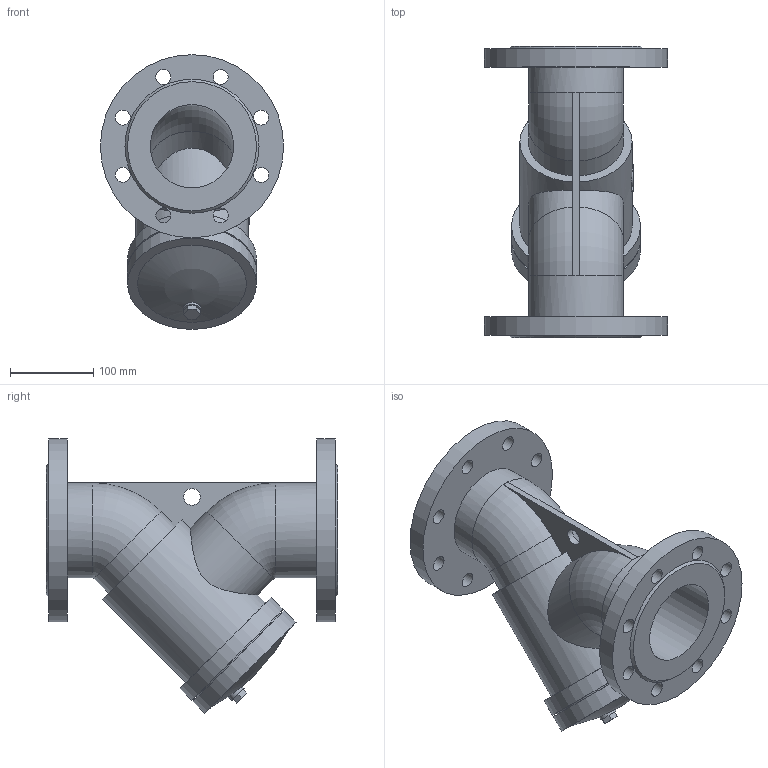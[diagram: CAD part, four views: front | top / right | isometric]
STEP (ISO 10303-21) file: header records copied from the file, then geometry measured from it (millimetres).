
FILE_DESCRIPTION(('STEP AP203'), '1');
FILE_NAME('Ôèëüòð ñåò÷àòûé ôëàíöåâûé 021Y DN100 PN10_PN16', '', ('UNSPECIFIED'), ('UNSPECIFIED'), 'ASCON STEP Converter 1.6', 'ASCON Math Kernel', '');
FILE_SCHEMA(('CONFIG_CONTROL_DESIGN'));
Length unit declared in the file: millimetre
Bounding box: 220 x 350 x 330 mm (x, y, z)
Volume: 4789598.2 mm3; surface area: 464224 mm2
Topology: 1 solids, 1 shells, 84 faces, 194 edges, 125 vertices
Faces by surface type: cylinder 40, plane 37, torus 4, cone 2, sphere 1
Full cylindrical faces by diameter (mm): 18 x16, 20 x1, 21 x1, 100 x4, 114 x2, 135 x1, 143 x1, 155 x2, 220 x2
Entity records: 4148 total; most frequent: CARTESIAN_POINT 1552, DIRECTION 399, ORIENTED_EDGE 314, AXIS2_PLACEMENT_3D 170, EDGE_LOOP 167, EDGE_CURVE 157, VERTEX_POINT 124, FACE_BOUND 102
